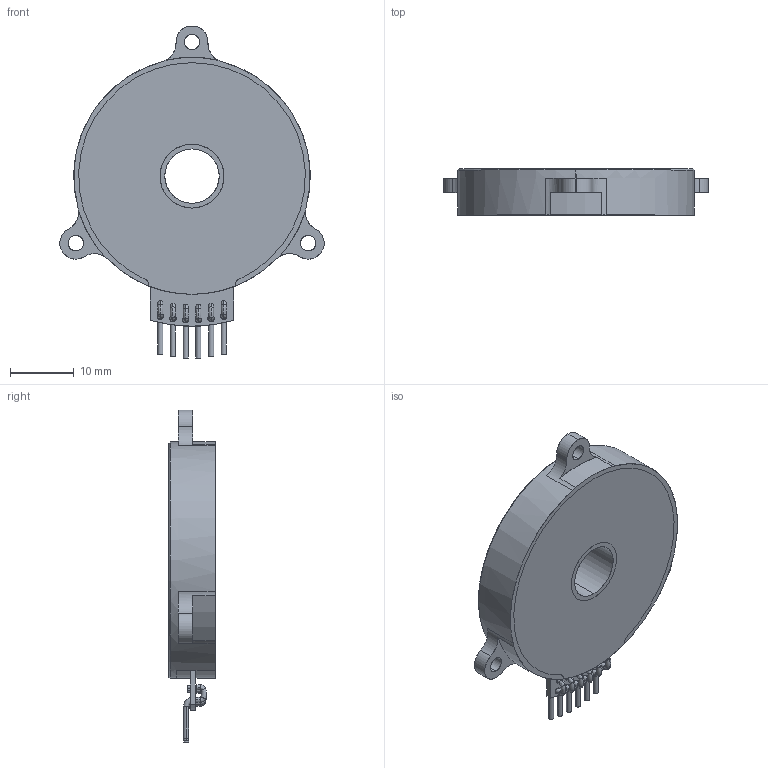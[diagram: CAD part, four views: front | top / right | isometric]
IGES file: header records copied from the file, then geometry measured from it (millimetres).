
Start section: SolidWorks IGES file using analytic representation for surfaces
Global section: file name: C:\Zettlex Data\Mechanical Drawings\4114\37mm Screw Mount Stator Rev 1-0.IGS; native system: SolidWorks 2015; preprocessor: SolidWorks 2015; author: Nigel; date: 150904.161959; units: millimetre
Bounding box: 41.37 x 7.25 x 51.98 mm (x, y, z)
Surface area: 7208.7 mm2 (no closed solid volume)
Topology: 0 solids, 0 shells, 841 faces, 8944 edges, 8944 vertices
Faces by surface type: bspline 722, revolution 119
